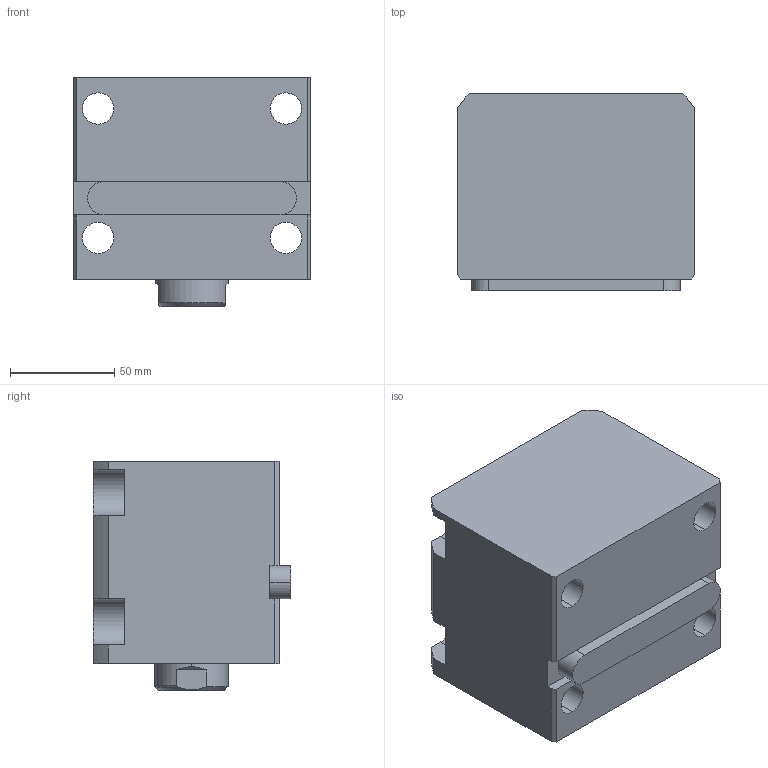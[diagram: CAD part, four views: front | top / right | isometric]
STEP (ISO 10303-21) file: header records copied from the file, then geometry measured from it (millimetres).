
FILE_DESCRIPTION (( 'STEP AP214' ), '1' );
FILE_NAME ('chtb-la63x30n_asm.STEP', '2018-05-02T08:18:53', ( 'Windows' ), ( 'Microsoft' ), 'SwSTEP 2.0', 'SolidWorks 2015', '' );
FILE_SCHEMA (( 'AUTOMOTIVE_DESIGN' ));
Length unit declared in the file: millimetre
Products named in the file (5): CHTB-LA63X30NBT; CHTB-LA63PJ; CHTB63X30NHSG; CHTB-63QG; chtb-la63x30n_asm
Assembly tree (4 placements, depth 2):
  chtb-la63x30n_asm
    CHTB-63QG
    CHTB63X30NHSG
    CHTB-LA63PJ
    CHTB-LA63X30NBT
Bounding box: 114 x 94.5 x 110 mm (x, y, z)
Volume: 842856.9 mm3; surface area: 138099.5 mm2
Topology: 4 solids, 4 shells, 174 faces, 510 edges, 348 vertices
Faces by surface type: cylinder 98, plane 45, bspline 12, cone 12, torus 7
Entity records: 18199 total; most frequent: CARTESIAN_POINT 13678, ORIENTED_EDGE 1008, DIRECTION 778, EDGE_CURVE 504, VERTEX_POINT 348, AXIS2_PLACEMENT_3D 295, EDGE_LOOP 198, VECTOR 188
